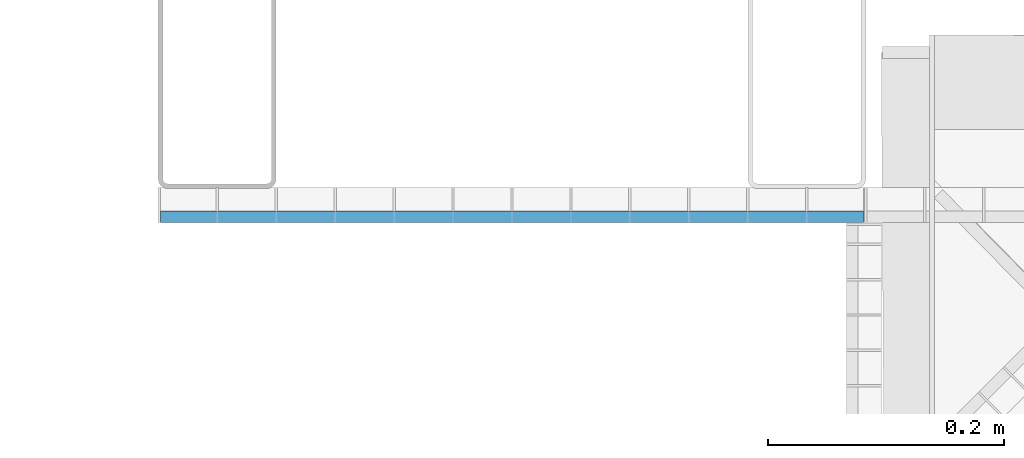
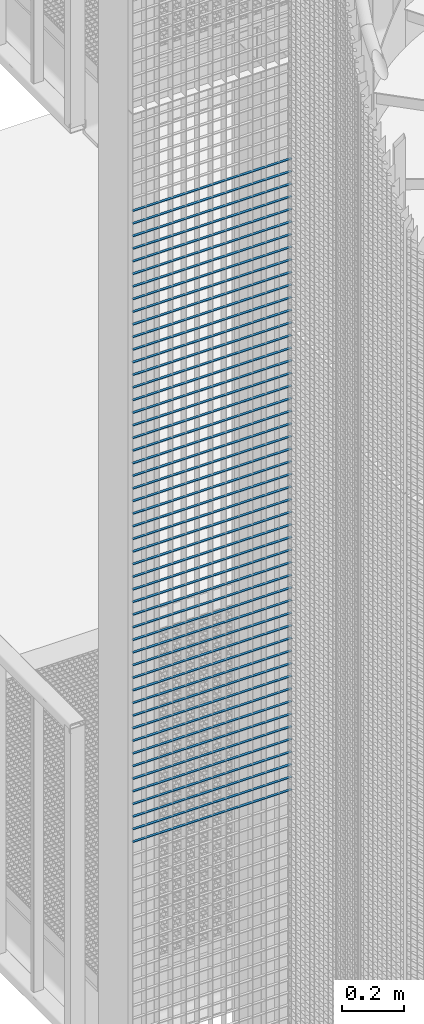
# One storey, part 322 of 1148: 51 beams, 51 elements without a shape of their own.
"""IFC2X3 building model written with IfcOpenShell, lengths in millimetres."""

from ifc_helpers import new_model, si_unit, frame, origin_with_axes, origin_2d_with_axis, place, context, subcontext, project, spatial, rectangle, extrude, material, type_object, element, aggregate, save


model = new_model("IFC2X3")

# Units and contexts
model_context = context("Model", 3, precision=1e-05, world=origin_with_axes())
body_context = subcontext(model_context, "Body", "Model", "MODEL_VIEW")
ifc_project = project(units=[si_unit("LENGTHUNIT", "METRE", prefix="MILLI"), si_unit("AREAUNIT", "SQUARE_METRE"), si_unit("VOLUMEUNIT", "CUBIC_METRE"), si_unit("MASSUNIT", "GRAM", prefix="KILO"), si_unit("TIMEUNIT", "SECOND"), si_unit("PLANEANGLEUNIT", "RADIAN"), si_unit("SOLIDANGLEUNIT", "STERADIAN"), si_unit("THERMODYNAMICTEMPERATUREUNIT", "DEGREE_CELSIUS"), si_unit("LUMINOUSINTENSITYUNIT", "LUMEN")], contexts=[model_context])

# Site, building, storey
site_placement = place(None, origin_with_axes())
site = spatial("IfcSite", under=ifc_project, at=site_placement, Name="Undefined", CompositionType="ELEMENT")
building_placement = place(site_placement, origin_with_axes())
building = spatial("IfcBuilding", under=site, at=building_placement, Name="Undefined", CompositionType="ELEMENT")
storey_placement = place(building_placement, origin_with_axes())
storey = spatial("IfcBuildingStorey", under=building, at=storey_placement, Name="Undefined", CompositionType="ELEMENT", Elevation=0.0)

# Assembly, beam
assembly_1_placement = place(storey_placement, origin_with_axes())
assembly_1 = element("IfcElementAssembly", 1, at=assembly_1_placement, inside=storey, AssemblyPlace="NOTDEFINED", PredefinedType="NOTDEFINED")
ifc_material = material(Name="STEEL/S235JR")
beam_type = type_object("IfcBeamType", Name="PL2*10", PredefinedType="NOTDEFINED")
beam_1_placement = place(assembly_1_placement, frame((20647.930410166, 876.014689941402, 9654.998), z_axis=(0.0, -1.0, 0.0), x_axis=(-1.0, 0.0, 0.0)))
beam_1 = element("IfcBeam", 2, at=beam_1_placement, type_object=beam_type, material=ifc_material, Name="ENTRETOISE", context=body_context, shape_type="SweptSolid", body=[
    extrude(rectangle(XDim=2.0, YDim=10.0, at=origin_2d_with_axis()), frame((596.0, 0.0, 0.0), z_axis=(-1.0, 0.0, 0.0), x_axis=(0.0, -1.0, 0.0)), (0.0, 0.0, 1.0), 596.0),
])
aggregate(assembly_1, [beam_1])

assembly_2_placement = place(storey_placement, origin_with_axes())
assembly_2 = element("IfcElementAssembly", 3, at=assembly_2_placement, inside=storey, AssemblyPlace="NOTDEFINED", PredefinedType="NOTDEFINED")
beam_2_placement = place(assembly_2_placement, frame((20647.930410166, 876.014689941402, 9604.998), z_axis=(0.0, -1.0, 0.0), x_axis=(-1.0, 0.0, 0.0)))
beam_2 = element("IfcBeam", 4, at=beam_2_placement, type_object=beam_type, material=ifc_material, Name="ENTRETOISE", context=body_context, shape_type="SweptSolid", body=[
    extrude(rectangle(XDim=2.0, YDim=10.0, at=origin_2d_with_axis()), frame((596.0, 0.0, 0.0), z_axis=(-1.0, 0.0, 0.0), x_axis=(0.0, -1.0, 0.0)), (0.0, 0.0, 1.0), 596.0),
])
aggregate(assembly_2, [beam_2])

assembly_3_placement = place(storey_placement, origin_with_axes())
assembly_3 = element("IfcElementAssembly", 5, at=assembly_3_placement, inside=storey, AssemblyPlace="NOTDEFINED", PredefinedType="NOTDEFINED")
beam_3_placement = place(assembly_3_placement, frame((20647.930410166, 876.014689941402, 9554.998), z_axis=(0.0, -1.0, 0.0), x_axis=(-1.0, 0.0, 0.0)))
beam_3 = element("IfcBeam", 6, at=beam_3_placement, type_object=beam_type, material=ifc_material, Name="ENTRETOISE", context=body_context, shape_type="SweptSolid", body=[
    extrude(rectangle(XDim=2.0, YDim=10.0, at=origin_2d_with_axis()), frame((596.0, 0.0, 0.0), z_axis=(-1.0, 0.0, 0.0), x_axis=(0.0, -1.0, 0.0)), (0.0, 0.0, 1.0), 596.0),
])
aggregate(assembly_3, [beam_3])

assembly_4_placement = place(storey_placement, origin_with_axes())
assembly_4 = element("IfcElementAssembly", 7, at=assembly_4_placement, inside=storey, AssemblyPlace="NOTDEFINED", PredefinedType="NOTDEFINED")
beam_4_placement = place(assembly_4_placement, frame((20647.930410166, 876.014689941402, 9504.998), z_axis=(0.0, -1.0, 0.0), x_axis=(-1.0, 0.0, 0.0)))
beam_4 = element("IfcBeam", 8, at=beam_4_placement, type_object=beam_type, material=ifc_material, Name="ENTRETOISE", context=body_context, shape_type="SweptSolid", body=[
    extrude(rectangle(XDim=2.0, YDim=10.0, at=origin_2d_with_axis()), frame((596.0, 0.0, 0.0), z_axis=(-1.0, 0.0, 0.0), x_axis=(0.0, -1.0, 0.0)), (0.0, 0.0, 1.0), 596.0),
])
aggregate(assembly_4, [beam_4])

assembly_5_placement = place(storey_placement, origin_with_axes())
assembly_5 = element("IfcElementAssembly", 9, at=assembly_5_placement, inside=storey, AssemblyPlace="NOTDEFINED", PredefinedType="NOTDEFINED")
beam_5_placement = place(assembly_5_placement, frame((20647.930410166, 876.014689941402, 9454.998), z_axis=(0.0, -1.0, 0.0), x_axis=(-1.0, 0.0, 0.0)))
beam_5 = element("IfcBeam", 10, at=beam_5_placement, type_object=beam_type, material=ifc_material, Name="ENTRETOISE", context=body_context, shape_type="SweptSolid", body=[
    extrude(rectangle(XDim=2.0, YDim=10.0, at=origin_2d_with_axis()), frame((596.0, 0.0, 0.0), z_axis=(-1.0, 0.0, 0.0), x_axis=(0.0, -1.0, 0.0)), (0.0, 0.0, 1.0), 596.0),
])
aggregate(assembly_5, [beam_5])

assembly_6_placement = place(storey_placement, origin_with_axes())
assembly_6 = element("IfcElementAssembly", 11, at=assembly_6_placement, inside=storey, AssemblyPlace="NOTDEFINED", PredefinedType="NOTDEFINED")
beam_6_placement = place(assembly_6_placement, frame((20647.930410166, 876.014689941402, 9404.998), z_axis=(0.0, -1.0, 0.0), x_axis=(-1.0, 0.0, 0.0)))
beam_6 = element("IfcBeam", 12, at=beam_6_placement, type_object=beam_type, material=ifc_material, Name="ENTRETOISE", context=body_context, shape_type="SweptSolid", body=[
    extrude(rectangle(XDim=2.0, YDim=10.0, at=origin_2d_with_axis()), frame((596.0, 0.0, 0.0), z_axis=(-1.0, 0.0, 0.0), x_axis=(0.0, -1.0, 0.0)), (0.0, 0.0, 1.0), 596.0),
])
aggregate(assembly_6, [beam_6])

assembly_7_placement = place(storey_placement, origin_with_axes())
assembly_7 = element("IfcElementAssembly", 13, at=assembly_7_placement, inside=storey, AssemblyPlace="NOTDEFINED", PredefinedType="NOTDEFINED")
beam_7_placement = place(assembly_7_placement, frame((20647.930410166, 876.014689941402, 9354.998), z_axis=(0.0, -1.0, 0.0), x_axis=(-1.0, 0.0, 0.0)))
beam_7 = element("IfcBeam", 14, at=beam_7_placement, type_object=beam_type, material=ifc_material, Name="ENTRETOISE", context=body_context, shape_type="SweptSolid", body=[
    extrude(rectangle(XDim=2.0, YDim=10.0, at=origin_2d_with_axis()), frame((596.0, 0.0, 0.0), z_axis=(-1.0, 0.0, 0.0), x_axis=(0.0, -1.0, 0.0)), (0.0, 0.0, 1.0), 596.0),
])
aggregate(assembly_7, [beam_7])

assembly_8_placement = place(storey_placement, origin_with_axes())
assembly_8 = element("IfcElementAssembly", 15, at=assembly_8_placement, inside=storey, AssemblyPlace="NOTDEFINED", PredefinedType="NOTDEFINED")
beam_8_placement = place(assembly_8_placement, frame((20647.930410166, 876.014689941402, 9304.998), z_axis=(0.0, -1.0, 0.0), x_axis=(-1.0, 0.0, 0.0)))
beam_8 = element("IfcBeam", 16, at=beam_8_placement, type_object=beam_type, material=ifc_material, Name="ENTRETOISE", context=body_context, shape_type="SweptSolid", body=[
    extrude(rectangle(XDim=2.0, YDim=10.0, at=origin_2d_with_axis()), frame((596.0, 0.0, 0.0), z_axis=(-1.0, 0.0, 0.0), x_axis=(0.0, -1.0, 0.0)), (0.0, 0.0, 1.0), 596.0),
])
aggregate(assembly_8, [beam_8])

assembly_9_placement = place(storey_placement, origin_with_axes())
assembly_9 = element("IfcElementAssembly", 17, at=assembly_9_placement, inside=storey, AssemblyPlace="NOTDEFINED", PredefinedType="NOTDEFINED")
beam_9_placement = place(assembly_9_placement, frame((20647.930410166, 876.014689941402, 9254.998), z_axis=(0.0, -1.0, 0.0), x_axis=(-1.0, 0.0, 0.0)))
beam_9 = element("IfcBeam", 18, at=beam_9_placement, type_object=beam_type, material=ifc_material, Name="ENTRETOISE", context=body_context, shape_type="SweptSolid", body=[
    extrude(rectangle(XDim=2.0, YDim=10.0, at=origin_2d_with_axis()), frame((596.0, 0.0, 0.0), z_axis=(-1.0, 0.0, 0.0), x_axis=(0.0, -1.0, 0.0)), (0.0, 0.0, 1.0), 596.0),
])
aggregate(assembly_9, [beam_9])

assembly_10_placement = place(storey_placement, origin_with_axes())
assembly_10 = element("IfcElementAssembly", 19, at=assembly_10_placement, inside=storey, AssemblyPlace="NOTDEFINED", PredefinedType="NOTDEFINED")
beam_10_placement = place(assembly_10_placement, frame((20647.930410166, 876.014689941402, 9204.998), z_axis=(0.0, -1.0, 0.0), x_axis=(-1.0, 0.0, 0.0)))
beam_10 = element("IfcBeam", 20, at=beam_10_placement, type_object=beam_type, material=ifc_material, Name="ENTRETOISE", context=body_context, shape_type="SweptSolid", body=[
    extrude(rectangle(XDim=2.0, YDim=10.0, at=origin_2d_with_axis()), frame((596.0, 0.0, 0.0), z_axis=(-1.0, 0.0, 0.0), x_axis=(0.0, -1.0, 0.0)), (0.0, 0.0, 1.0), 596.0),
])
aggregate(assembly_10, [beam_10])

assembly_11_placement = place(storey_placement, origin_with_axes())
assembly_11 = element("IfcElementAssembly", 21, at=assembly_11_placement, inside=storey, AssemblyPlace="NOTDEFINED", PredefinedType="NOTDEFINED")
beam_11_placement = place(assembly_11_placement, frame((20647.930410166, 876.014689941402, 9154.998), z_axis=(0.0, -1.0, 0.0), x_axis=(-1.0, 0.0, 0.0)))
beam_11 = element("IfcBeam", 22, at=beam_11_placement, type_object=beam_type, material=ifc_material, Name="ENTRETOISE", context=body_context, shape_type="SweptSolid", body=[
    extrude(rectangle(XDim=2.0, YDim=10.0, at=origin_2d_with_axis()), frame((596.0, 0.0, 0.0), z_axis=(-1.0, 0.0, 0.0), x_axis=(0.0, -1.0, 0.0)), (0.0, 0.0, 1.0), 596.0),
])
aggregate(assembly_11, [beam_11])

assembly_12_placement = place(storey_placement, origin_with_axes())
assembly_12 = element("IfcElementAssembly", 23, at=assembly_12_placement, inside=storey, AssemblyPlace="NOTDEFINED", PredefinedType="NOTDEFINED")
beam_12_placement = place(assembly_12_placement, frame((20647.930410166, 876.014689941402, 9104.998), z_axis=(0.0, -1.0, 0.0), x_axis=(-1.0, 0.0, 0.0)))
beam_12 = element("IfcBeam", 24, at=beam_12_placement, type_object=beam_type, material=ifc_material, Name="ENTRETOISE", context=body_context, shape_type="SweptSolid", body=[
    extrude(rectangle(XDim=2.0, YDim=10.0, at=origin_2d_with_axis()), frame((596.0, 0.0, 0.0), z_axis=(-1.0, 0.0, 0.0), x_axis=(0.0, -1.0, 0.0)), (0.0, 0.0, 1.0), 596.0),
])
aggregate(assembly_12, [beam_12])

assembly_13_placement = place(storey_placement, origin_with_axes())
assembly_13 = element("IfcElementAssembly", 25, at=assembly_13_placement, inside=storey, AssemblyPlace="NOTDEFINED", PredefinedType="NOTDEFINED")
beam_13_placement = place(assembly_13_placement, frame((20647.930410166, 876.014689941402, 9054.998), z_axis=(0.0, -1.0, 0.0), x_axis=(-1.0, 0.0, 0.0)))
beam_13 = element("IfcBeam", 26, at=beam_13_placement, type_object=beam_type, material=ifc_material, Name="ENTRETOISE", context=body_context, shape_type="SweptSolid", body=[
    extrude(rectangle(XDim=2.0, YDim=10.0, at=origin_2d_with_axis()), frame((596.0, 0.0, 0.0), z_axis=(-1.0, 0.0, 0.0), x_axis=(0.0, -1.0, 0.0)), (0.0, 0.0, 1.0), 596.0),
])
aggregate(assembly_13, [beam_13])

assembly_14_placement = place(storey_placement, origin_with_axes())
assembly_14 = element("IfcElementAssembly", 27, at=assembly_14_placement, inside=storey, AssemblyPlace="NOTDEFINED", PredefinedType="NOTDEFINED")
beam_14_placement = place(assembly_14_placement, frame((20647.930410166, 876.014689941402, 9004.998), z_axis=(0.0, -1.0, 0.0), x_axis=(-1.0, 0.0, 0.0)))
beam_14 = element("IfcBeam", 28, at=beam_14_placement, type_object=beam_type, material=ifc_material, Name="ENTRETOISE", context=body_context, shape_type="SweptSolid", body=[
    extrude(rectangle(XDim=2.0, YDim=10.0, at=origin_2d_with_axis()), frame((596.0, 0.0, 0.0), z_axis=(-1.0, 0.0, 0.0), x_axis=(0.0, -1.0, 0.0)), (0.0, 0.0, 1.0), 596.0),
])
aggregate(assembly_14, [beam_14])

assembly_15_placement = place(storey_placement, origin_with_axes())
assembly_15 = element("IfcElementAssembly", 29, at=assembly_15_placement, inside=storey, AssemblyPlace="NOTDEFINED", PredefinedType="NOTDEFINED")
beam_15_placement = place(assembly_15_placement, frame((20647.930410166, 876.014689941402, 8954.998), z_axis=(0.0, -1.0, 0.0), x_axis=(-1.0, 0.0, 0.0)))
beam_15 = element("IfcBeam", 30, at=beam_15_placement, type_object=beam_type, material=ifc_material, Name="ENTRETOISE", context=body_context, shape_type="SweptSolid", body=[
    extrude(rectangle(XDim=2.0, YDim=10.0, at=origin_2d_with_axis()), frame((596.0, 0.0, 0.0), z_axis=(-1.0, 0.0, 0.0), x_axis=(0.0, -1.0, 0.0)), (0.0, 0.0, 1.0), 596.0),
])
aggregate(assembly_15, [beam_15])

assembly_16_placement = place(storey_placement, origin_with_axes())
assembly_16 = element("IfcElementAssembly", 31, at=assembly_16_placement, inside=storey, AssemblyPlace="NOTDEFINED", PredefinedType="NOTDEFINED")
beam_16_placement = place(assembly_16_placement, frame((20647.930410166, 876.014689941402, 8904.998), z_axis=(0.0, -1.0, 0.0), x_axis=(-1.0, 0.0, 0.0)))
beam_16 = element("IfcBeam", 32, at=beam_16_placement, type_object=beam_type, material=ifc_material, Name="ENTRETOISE", context=body_context, shape_type="SweptSolid", body=[
    extrude(rectangle(XDim=2.0, YDim=10.0, at=origin_2d_with_axis()), frame((596.0, 0.0, 0.0), z_axis=(-1.0, 0.0, 0.0), x_axis=(0.0, -1.0, 0.0)), (0.0, 0.0, 1.0), 596.0),
])
aggregate(assembly_16, [beam_16])

assembly_17_placement = place(storey_placement, origin_with_axes())
assembly_17 = element("IfcElementAssembly", 33, at=assembly_17_placement, inside=storey, AssemblyPlace="NOTDEFINED", PredefinedType="NOTDEFINED")
beam_17_placement = place(assembly_17_placement, frame((20647.930410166, 876.014689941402, 8854.998), z_axis=(0.0, -1.0, 0.0), x_axis=(-1.0, 0.0, 0.0)))
beam_17 = element("IfcBeam", 34, at=beam_17_placement, type_object=beam_type, material=ifc_material, Name="ENTRETOISE", context=body_context, shape_type="SweptSolid", body=[
    extrude(rectangle(XDim=2.0, YDim=10.0, at=origin_2d_with_axis()), frame((596.0, 0.0, 0.0), z_axis=(-1.0, 0.0, 0.0), x_axis=(0.0, -1.0, 0.0)), (0.0, 0.0, 1.0), 596.0),
])
aggregate(assembly_17, [beam_17])

assembly_18_placement = place(storey_placement, origin_with_axes())
assembly_18 = element("IfcElementAssembly", 35, at=assembly_18_placement, inside=storey, AssemblyPlace="NOTDEFINED", PredefinedType="NOTDEFINED")
beam_18_placement = place(assembly_18_placement, frame((20647.930410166, 876.014689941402, 8804.998), z_axis=(0.0, -1.0, 0.0), x_axis=(-1.0, 0.0, 0.0)))
beam_18 = element("IfcBeam", 36, at=beam_18_placement, type_object=beam_type, material=ifc_material, Name="ENTRETOISE", context=body_context, shape_type="SweptSolid", body=[
    extrude(rectangle(XDim=2.0, YDim=10.0, at=origin_2d_with_axis()), frame((596.0, 0.0, 0.0), z_axis=(-1.0, 0.0, 0.0), x_axis=(0.0, -1.0, 0.0)), (0.0, 0.0, 1.0), 596.0),
])
aggregate(assembly_18, [beam_18])

assembly_19_placement = place(storey_placement, origin_with_axes())
assembly_19 = element("IfcElementAssembly", 37, at=assembly_19_placement, inside=storey, AssemblyPlace="NOTDEFINED", PredefinedType="NOTDEFINED")
beam_19_placement = place(assembly_19_placement, frame((20647.930410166, 876.014689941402, 8754.998), z_axis=(0.0, -1.0, 0.0), x_axis=(-1.0, 0.0, 0.0)))
beam_19 = element("IfcBeam", 38, at=beam_19_placement, type_object=beam_type, material=ifc_material, Name="ENTRETOISE", context=body_context, shape_type="SweptSolid", body=[
    extrude(rectangle(XDim=2.0, YDim=10.0, at=origin_2d_with_axis()), frame((596.0, 0.0, 0.0), z_axis=(-1.0, 0.0, 0.0), x_axis=(0.0, -1.0, 0.0)), (0.0, 0.0, 1.0), 596.0),
])
aggregate(assembly_19, [beam_19])

assembly_20_placement = place(storey_placement, origin_with_axes())
assembly_20 = element("IfcElementAssembly", 39, at=assembly_20_placement, inside=storey, AssemblyPlace="NOTDEFINED", PredefinedType="NOTDEFINED")
beam_20_placement = place(assembly_20_placement, frame((20647.930410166, 876.014689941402, 8704.998), z_axis=(0.0, -1.0, 0.0), x_axis=(-1.0, 0.0, 0.0)))
beam_20 = element("IfcBeam", 40, at=beam_20_placement, type_object=beam_type, material=ifc_material, Name="ENTRETOISE", context=body_context, shape_type="SweptSolid", body=[
    extrude(rectangle(XDim=2.0, YDim=10.0, at=origin_2d_with_axis()), frame((596.0, 0.0, 0.0), z_axis=(-1.0, 0.0, 0.0), x_axis=(0.0, -1.0, 0.0)), (0.0, 0.0, 1.0), 596.0),
])
aggregate(assembly_20, [beam_20])

assembly_21_placement = place(storey_placement, origin_with_axes())
assembly_21 = element("IfcElementAssembly", 41, at=assembly_21_placement, inside=storey, AssemblyPlace="NOTDEFINED", PredefinedType="NOTDEFINED")
beam_21_placement = place(assembly_21_placement, frame((20647.930410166, 876.014689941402, 8654.998), z_axis=(0.0, -1.0, 0.0), x_axis=(-1.0, 0.0, 0.0)))
beam_21 = element("IfcBeam", 42, at=beam_21_placement, type_object=beam_type, material=ifc_material, Name="ENTRETOISE", context=body_context, shape_type="SweptSolid", body=[
    extrude(rectangle(XDim=2.0, YDim=10.0, at=origin_2d_with_axis()), frame((596.0, 0.0, 0.0), z_axis=(-1.0, 0.0, 0.0), x_axis=(0.0, -1.0, 0.0)), (0.0, 0.0, 1.0), 596.0),
])
aggregate(assembly_21, [beam_21])

assembly_22_placement = place(storey_placement, origin_with_axes())
assembly_22 = element("IfcElementAssembly", 43, at=assembly_22_placement, inside=storey, AssemblyPlace="NOTDEFINED", PredefinedType="NOTDEFINED")
beam_22_placement = place(assembly_22_placement, frame((20647.930410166, 876.014689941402, 8604.998), z_axis=(0.0, -1.0, 0.0), x_axis=(-1.0, 0.0, 0.0)))
beam_22 = element("IfcBeam", 44, at=beam_22_placement, type_object=beam_type, material=ifc_material, Name="ENTRETOISE", context=body_context, shape_type="SweptSolid", body=[
    extrude(rectangle(XDim=2.0, YDim=10.0, at=origin_2d_with_axis()), frame((596.0, 0.0, 0.0), z_axis=(-1.0, 0.0, 0.0), x_axis=(0.0, -1.0, 0.0)), (0.0, 0.0, 1.0), 596.0),
])
aggregate(assembly_22, [beam_22])

assembly_23_placement = place(storey_placement, origin_with_axes())
assembly_23 = element("IfcElementAssembly", 45, at=assembly_23_placement, inside=storey, AssemblyPlace="NOTDEFINED", PredefinedType="NOTDEFINED")
beam_23_placement = place(assembly_23_placement, frame((20647.930410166, 876.014689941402, 8554.998), z_axis=(0.0, -1.0, 0.0), x_axis=(-1.0, 0.0, 0.0)))
beam_23 = element("IfcBeam", 46, at=beam_23_placement, type_object=beam_type, material=ifc_material, Name="ENTRETOISE", context=body_context, shape_type="SweptSolid", body=[
    extrude(rectangle(XDim=2.0, YDim=10.0, at=origin_2d_with_axis()), frame((596.0, 0.0, 0.0), z_axis=(-1.0, 0.0, 0.0), x_axis=(0.0, -1.0, 0.0)), (0.0, 0.0, 1.0), 596.0),
])
aggregate(assembly_23, [beam_23])

assembly_24_placement = place(storey_placement, origin_with_axes())
assembly_24 = element("IfcElementAssembly", 47, at=assembly_24_placement, inside=storey, AssemblyPlace="NOTDEFINED", PredefinedType="NOTDEFINED")
beam_24_placement = place(assembly_24_placement, frame((20647.930410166, 876.014689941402, 8504.998), z_axis=(0.0, -1.0, 0.0), x_axis=(-1.0, 0.0, 0.0)))
beam_24 = element("IfcBeam", 48, at=beam_24_placement, type_object=beam_type, material=ifc_material, Name="ENTRETOISE", context=body_context, shape_type="SweptSolid", body=[
    extrude(rectangle(XDim=2.0, YDim=10.0, at=origin_2d_with_axis()), frame((596.0, 0.0, 0.0), z_axis=(-1.0, 0.0, 0.0), x_axis=(0.0, -1.0, 0.0)), (0.0, 0.0, 1.0), 596.0),
])
aggregate(assembly_24, [beam_24])

assembly_25_placement = place(storey_placement, origin_with_axes())
assembly_25 = element("IfcElementAssembly", 49, at=assembly_25_placement, inside=storey, AssemblyPlace="NOTDEFINED", PredefinedType="NOTDEFINED")
beam_25_placement = place(assembly_25_placement, frame((20647.930410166, 876.014689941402, 8454.998), z_axis=(0.0, -1.0, 0.0), x_axis=(-1.0, 0.0, 0.0)))
beam_25 = element("IfcBeam", 50, at=beam_25_placement, type_object=beam_type, material=ifc_material, Name="ENTRETOISE", context=body_context, shape_type="SweptSolid", body=[
    extrude(rectangle(XDim=2.0, YDim=10.0, at=origin_2d_with_axis()), frame((596.0, 0.0, 0.0), z_axis=(-1.0, 0.0, 0.0), x_axis=(0.0, -1.0, 0.0)), (0.0, 0.0, 1.0), 596.0),
])
aggregate(assembly_25, [beam_25])

assembly_26_placement = place(storey_placement, origin_with_axes())
assembly_26 = element("IfcElementAssembly", 51, at=assembly_26_placement, inside=storey, AssemblyPlace="NOTDEFINED", PredefinedType="NOTDEFINED")
beam_26_placement = place(assembly_26_placement, frame((20647.930410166, 876.014689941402, 8404.998), z_axis=(0.0, -1.0, 0.0), x_axis=(-1.0, 0.0, 0.0)))
beam_26 = element("IfcBeam", 52, at=beam_26_placement, type_object=beam_type, material=ifc_material, Name="ENTRETOISE", context=body_context, shape_type="SweptSolid", body=[
    extrude(rectangle(XDim=2.0, YDim=10.0, at=origin_2d_with_axis()), frame((596.0, 0.0, 0.0), z_axis=(-1.0, 0.0, 0.0), x_axis=(0.0, -1.0, 0.0)), (0.0, 0.0, 1.0), 596.0),
])
aggregate(assembly_26, [beam_26])

assembly_27_placement = place(storey_placement, origin_with_axes())
assembly_27 = element("IfcElementAssembly", 53, at=assembly_27_placement, inside=storey, AssemblyPlace="NOTDEFINED", PredefinedType="NOTDEFINED")
beam_27_placement = place(assembly_27_placement, frame((20647.930410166, 876.014689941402, 8354.998), z_axis=(0.0, -1.0, 0.0), x_axis=(-1.0, 0.0, 0.0)))
beam_27 = element("IfcBeam", 54, at=beam_27_placement, type_object=beam_type, material=ifc_material, Name="ENTRETOISE", context=body_context, shape_type="SweptSolid", body=[
    extrude(rectangle(XDim=2.0, YDim=10.0, at=origin_2d_with_axis()), frame((596.0, 0.0, 0.0), z_axis=(-1.0, 0.0, 0.0), x_axis=(0.0, -1.0, 0.0)), (0.0, 0.0, 1.0), 596.0),
])
aggregate(assembly_27, [beam_27])

assembly_28_placement = place(storey_placement, origin_with_axes())
assembly_28 = element("IfcElementAssembly", 55, at=assembly_28_placement, inside=storey, AssemblyPlace="NOTDEFINED", PredefinedType="NOTDEFINED")
beam_28_placement = place(assembly_28_placement, frame((20647.930410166, 876.014689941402, 8304.998), z_axis=(0.0, -1.0, 0.0), x_axis=(-1.0, 0.0, 0.0)))
beam_28 = element("IfcBeam", 56, at=beam_28_placement, type_object=beam_type, material=ifc_material, Name="ENTRETOISE", context=body_context, shape_type="SweptSolid", body=[
    extrude(rectangle(XDim=2.0, YDim=10.0, at=origin_2d_with_axis()), frame((596.0, 0.0, 0.0), z_axis=(-1.0, 0.0, 0.0), x_axis=(0.0, -1.0, 0.0)), (0.0, 0.0, 1.0), 596.0),
])
aggregate(assembly_28, [beam_28])

assembly_29_placement = place(storey_placement, origin_with_axes())
assembly_29 = element("IfcElementAssembly", 57, at=assembly_29_placement, inside=storey, AssemblyPlace="NOTDEFINED", PredefinedType="NOTDEFINED")
beam_29_placement = place(assembly_29_placement, frame((20647.930410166, 876.014689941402, 8254.998), z_axis=(0.0, -1.0, 0.0), x_axis=(-1.0, 0.0, 0.0)))
beam_29 = element("IfcBeam", 58, at=beam_29_placement, type_object=beam_type, material=ifc_material, Name="ENTRETOISE", context=body_context, shape_type="SweptSolid", body=[
    extrude(rectangle(XDim=2.0, YDim=10.0, at=origin_2d_with_axis()), frame((596.0, 0.0, 0.0), z_axis=(-1.0, 0.0, 0.0), x_axis=(0.0, -1.0, 0.0)), (0.0, 0.0, 1.0), 596.0),
])
aggregate(assembly_29, [beam_29])

assembly_30_placement = place(storey_placement, origin_with_axes())
assembly_30 = element("IfcElementAssembly", 59, at=assembly_30_placement, inside=storey, AssemblyPlace="NOTDEFINED", PredefinedType="NOTDEFINED")
beam_30_placement = place(assembly_30_placement, frame((20647.930410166, 876.014689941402, 8204.998), z_axis=(0.0, -1.0, 0.0), x_axis=(-1.0, 0.0, 0.0)))
beam_30 = element("IfcBeam", 60, at=beam_30_placement, type_object=beam_type, material=ifc_material, Name="ENTRETOISE", context=body_context, shape_type="SweptSolid", body=[
    extrude(rectangle(XDim=2.0, YDim=10.0, at=origin_2d_with_axis()), frame((596.0, 0.0, 0.0), z_axis=(-1.0, 0.0, 0.0), x_axis=(0.0, -1.0, 0.0)), (0.0, 0.0, 1.0), 596.0),
])
aggregate(assembly_30, [beam_30])

assembly_31_placement = place(storey_placement, origin_with_axes())
assembly_31 = element("IfcElementAssembly", 61, at=assembly_31_placement, inside=storey, AssemblyPlace="NOTDEFINED", PredefinedType="NOTDEFINED")
beam_31_placement = place(assembly_31_placement, frame((20647.930410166, 876.014689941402, 8154.998), z_axis=(0.0, -1.0, 0.0), x_axis=(-1.0, 0.0, 0.0)))
beam_31 = element("IfcBeam", 62, at=beam_31_placement, type_object=beam_type, material=ifc_material, Name="ENTRETOISE", context=body_context, shape_type="SweptSolid", body=[
    extrude(rectangle(XDim=2.0, YDim=10.0, at=origin_2d_with_axis()), frame((596.0, 0.0, 0.0), z_axis=(-1.0, 0.0, 0.0), x_axis=(0.0, -1.0, 0.0)), (0.0, 0.0, 1.0), 596.0),
])
aggregate(assembly_31, [beam_31])

assembly_32_placement = place(storey_placement, origin_with_axes())
assembly_32 = element("IfcElementAssembly", 63, at=assembly_32_placement, inside=storey, AssemblyPlace="NOTDEFINED", PredefinedType="NOTDEFINED")
beam_32_placement = place(assembly_32_placement, frame((20647.930410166, 876.014689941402, 8104.998), z_axis=(0.0, -1.0, 0.0), x_axis=(-1.0, 0.0, 0.0)))
beam_32 = element("IfcBeam", 64, at=beam_32_placement, type_object=beam_type, material=ifc_material, Name="ENTRETOISE", context=body_context, shape_type="SweptSolid", body=[
    extrude(rectangle(XDim=2.0, YDim=10.0, at=origin_2d_with_axis()), frame((596.0, 0.0, 0.0), z_axis=(-1.0, 0.0, 0.0), x_axis=(0.0, -1.0, 0.0)), (0.0, 0.0, 1.0), 596.0),
])
aggregate(assembly_32, [beam_32])

assembly_33_placement = place(storey_placement, origin_with_axes())
assembly_33 = element("IfcElementAssembly", 65, at=assembly_33_placement, inside=storey, AssemblyPlace="NOTDEFINED", PredefinedType="NOTDEFINED")
beam_33_placement = place(assembly_33_placement, frame((20647.930410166, 876.014689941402, 8054.998), z_axis=(0.0, -1.0, 0.0), x_axis=(-1.0, 0.0, 0.0)))
beam_33 = element("IfcBeam", 66, at=beam_33_placement, type_object=beam_type, material=ifc_material, Name="ENTRETOISE", context=body_context, shape_type="SweptSolid", body=[
    extrude(rectangle(XDim=2.0, YDim=10.0, at=origin_2d_with_axis()), frame((596.0, 0.0, 0.0), z_axis=(-1.0, 0.0, 0.0), x_axis=(0.0, -1.0, 0.0)), (0.0, 0.0, 1.0), 596.0),
])
aggregate(assembly_33, [beam_33])

assembly_34_placement = place(storey_placement, origin_with_axes())
assembly_34 = element("IfcElementAssembly", 67, at=assembly_34_placement, inside=storey, AssemblyPlace="NOTDEFINED", PredefinedType="NOTDEFINED")
beam_34_placement = place(assembly_34_placement, frame((20647.930410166, 876.014689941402, 8004.998), z_axis=(0.0, -1.0, 0.0), x_axis=(-1.0, 0.0, 0.0)))
beam_34 = element("IfcBeam", 68, at=beam_34_placement, type_object=beam_type, material=ifc_material, Name="ENTRETOISE", context=body_context, shape_type="SweptSolid", body=[
    extrude(rectangle(XDim=2.0, YDim=10.0, at=origin_2d_with_axis()), frame((596.0, 0.0, 0.0), z_axis=(-1.0, 0.0, 0.0), x_axis=(0.0, -1.0, 0.0)), (0.0, 0.0, 1.0), 596.0),
])
aggregate(assembly_34, [beam_34])

assembly_35_placement = place(storey_placement, origin_with_axes())
assembly_35 = element("IfcElementAssembly", 69, at=assembly_35_placement, inside=storey, AssemblyPlace="NOTDEFINED", PredefinedType="NOTDEFINED")
beam_35_placement = place(assembly_35_placement, frame((20647.930410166, 876.014689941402, 7954.998), z_axis=(0.0, -1.0, 0.0), x_axis=(-1.0, 0.0, 0.0)))
beam_35 = element("IfcBeam", 70, at=beam_35_placement, type_object=beam_type, material=ifc_material, Name="ENTRETOISE", context=body_context, shape_type="SweptSolid", body=[
    extrude(rectangle(XDim=2.0, YDim=10.0, at=origin_2d_with_axis()), frame((596.0, 0.0, 0.0), z_axis=(-1.0, 0.0, 0.0), x_axis=(0.0, -1.0, 0.0)), (0.0, 0.0, 1.0), 596.0),
])
aggregate(assembly_35, [beam_35])

assembly_36_placement = place(storey_placement, origin_with_axes())
assembly_36 = element("IfcElementAssembly", 71, at=assembly_36_placement, inside=storey, AssemblyPlace="NOTDEFINED", PredefinedType="NOTDEFINED")
beam_36_placement = place(assembly_36_placement, frame((20647.930410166, 876.014689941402, 7904.998), z_axis=(0.0, -1.0, 0.0), x_axis=(-1.0, 0.0, 0.0)))
beam_36 = element("IfcBeam", 72, at=beam_36_placement, type_object=beam_type, material=ifc_material, Name="ENTRETOISE", context=body_context, shape_type="SweptSolid", body=[
    extrude(rectangle(XDim=2.0, YDim=10.0, at=origin_2d_with_axis()), frame((596.0, 0.0, 0.0), z_axis=(-1.0, 0.0, 0.0), x_axis=(0.0, -1.0, 0.0)), (0.0, 0.0, 1.0), 596.0),
])
aggregate(assembly_36, [beam_36])

assembly_37_placement = place(storey_placement, origin_with_axes())
assembly_37 = element("IfcElementAssembly", 73, at=assembly_37_placement, inside=storey, AssemblyPlace="NOTDEFINED", PredefinedType="NOTDEFINED")
beam_37_placement = place(assembly_37_placement, frame((20647.930410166, 876.014689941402, 7854.998), z_axis=(0.0, -1.0, 0.0), x_axis=(-1.0, 0.0, 0.0)))
beam_37 = element("IfcBeam", 74, at=beam_37_placement, type_object=beam_type, material=ifc_material, Name="ENTRETOISE", context=body_context, shape_type="SweptSolid", body=[
    extrude(rectangle(XDim=2.0, YDim=10.0, at=origin_2d_with_axis()), frame((596.0, 0.0, 0.0), z_axis=(-1.0, 0.0, 0.0), x_axis=(0.0, -1.0, 0.0)), (0.0, 0.0, 1.0), 596.0),
])
aggregate(assembly_37, [beam_37])

assembly_38_placement = place(storey_placement, origin_with_axes())
assembly_38 = element("IfcElementAssembly", 75, at=assembly_38_placement, inside=storey, AssemblyPlace="NOTDEFINED", PredefinedType="NOTDEFINED")
beam_38_placement = place(assembly_38_placement, frame((20647.930410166, 876.014689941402, 7804.998), z_axis=(0.0, -1.0, 0.0), x_axis=(-1.0, 0.0, 0.0)))
beam_38 = element("IfcBeam", 76, at=beam_38_placement, type_object=beam_type, material=ifc_material, Name="ENTRETOISE", context=body_context, shape_type="SweptSolid", body=[
    extrude(rectangle(XDim=2.0, YDim=10.0, at=origin_2d_with_axis()), frame((596.0, 0.0, 0.0), z_axis=(-1.0, 0.0, 0.0), x_axis=(0.0, -1.0, 0.0)), (0.0, 0.0, 1.0), 596.0),
])
aggregate(assembly_38, [beam_38])

assembly_39_placement = place(storey_placement, origin_with_axes())
assembly_39 = element("IfcElementAssembly", 77, at=assembly_39_placement, inside=storey, AssemblyPlace="NOTDEFINED", PredefinedType="NOTDEFINED")
beam_39_placement = place(assembly_39_placement, frame((20647.930410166, 876.014689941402, 7754.998), z_axis=(0.0, -1.0, 0.0), x_axis=(-1.0, 0.0, 0.0)))
beam_39 = element("IfcBeam", 78, at=beam_39_placement, type_object=beam_type, material=ifc_material, Name="ENTRETOISE", context=body_context, shape_type="SweptSolid", body=[
    extrude(rectangle(XDim=2.0, YDim=10.0, at=origin_2d_with_axis()), frame((596.0, 0.0, 0.0), z_axis=(-1.0, 0.0, 0.0), x_axis=(0.0, -1.0, 0.0)), (0.0, 0.0, 1.0), 596.0),
])
aggregate(assembly_39, [beam_39])

assembly_40_placement = place(storey_placement, origin_with_axes())
assembly_40 = element("IfcElementAssembly", 79, at=assembly_40_placement, inside=storey, AssemblyPlace="NOTDEFINED", PredefinedType="NOTDEFINED")
beam_40_placement = place(assembly_40_placement, frame((20647.930410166, 876.014689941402, 7704.998), z_axis=(0.0, -1.0, 0.0), x_axis=(-1.0, 0.0, 0.0)))
beam_40 = element("IfcBeam", 80, at=beam_40_placement, type_object=beam_type, material=ifc_material, Name="ENTRETOISE", context=body_context, shape_type="SweptSolid", body=[
    extrude(rectangle(XDim=2.0, YDim=10.0, at=origin_2d_with_axis()), frame((596.0, 0.0, 0.0), z_axis=(-1.0, 0.0, 0.0), x_axis=(0.0, -1.0, 0.0)), (0.0, 0.0, 1.0), 596.0),
])
aggregate(assembly_40, [beam_40])

assembly_41_placement = place(storey_placement, origin_with_axes())
assembly_41 = element("IfcElementAssembly", 81, at=assembly_41_placement, inside=storey, AssemblyPlace="NOTDEFINED", PredefinedType="NOTDEFINED")
beam_41_placement = place(assembly_41_placement, frame((20647.930410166, 876.014689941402, 7654.998), z_axis=(0.0, -1.0, 0.0), x_axis=(-1.0, 0.0, 0.0)))
beam_41 = element("IfcBeam", 82, at=beam_41_placement, type_object=beam_type, material=ifc_material, Name="ENTRETOISE", context=body_context, shape_type="SweptSolid", body=[
    extrude(rectangle(XDim=2.0, YDim=10.0, at=origin_2d_with_axis()), frame((596.0, 0.0, 0.0), z_axis=(-1.0, 0.0, 0.0), x_axis=(0.0, -1.0, 0.0)), (0.0, 0.0, 1.0), 596.0),
])
aggregate(assembly_41, [beam_41])

assembly_42_placement = place(storey_placement, origin_with_axes())
assembly_42 = element("IfcElementAssembly", 83, at=assembly_42_placement, inside=storey, AssemblyPlace="NOTDEFINED", PredefinedType="NOTDEFINED")
beam_42_placement = place(assembly_42_placement, frame((20647.930410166, 876.014689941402, 7604.998), z_axis=(0.0, -1.0, 0.0), x_axis=(-1.0, 0.0, 0.0)))
beam_42 = element("IfcBeam", 84, at=beam_42_placement, type_object=beam_type, material=ifc_material, Name="ENTRETOISE", context=body_context, shape_type="SweptSolid", body=[
    extrude(rectangle(XDim=2.0, YDim=10.0, at=origin_2d_with_axis()), frame((596.0, 0.0, 0.0), z_axis=(-1.0, 0.0, 0.0), x_axis=(0.0, -1.0, 0.0)), (0.0, 0.0, 1.0), 596.0),
])
aggregate(assembly_42, [beam_42])

assembly_43_placement = place(storey_placement, origin_with_axes())
assembly_43 = element("IfcElementAssembly", 85, at=assembly_43_placement, inside=storey, AssemblyPlace="NOTDEFINED", PredefinedType="NOTDEFINED")
beam_43_placement = place(assembly_43_placement, frame((20647.930410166, 876.014689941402, 7554.998), z_axis=(0.0, -1.0, 0.0), x_axis=(-1.0, 0.0, 0.0)))
beam_43 = element("IfcBeam", 86, at=beam_43_placement, type_object=beam_type, material=ifc_material, Name="ENTRETOISE", context=body_context, shape_type="SweptSolid", body=[
    extrude(rectangle(XDim=2.0, YDim=10.0, at=origin_2d_with_axis()), frame((596.0, 0.0, 0.0), z_axis=(-1.0, 0.0, 0.0), x_axis=(0.0, -1.0, 0.0)), (0.0, 0.0, 1.0), 596.0),
])
aggregate(assembly_43, [beam_43])

assembly_44_placement = place(storey_placement, origin_with_axes())
assembly_44 = element("IfcElementAssembly", 87, at=assembly_44_placement, inside=storey, AssemblyPlace="NOTDEFINED", PredefinedType="NOTDEFINED")
beam_44_placement = place(assembly_44_placement, frame((20647.930410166, 876.014689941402, 7504.998), z_axis=(0.0, -1.0, 0.0), x_axis=(-1.0, 0.0, 0.0)))
beam_44 = element("IfcBeam", 88, at=beam_44_placement, type_object=beam_type, material=ifc_material, Name="ENTRETOISE", context=body_context, shape_type="SweptSolid", body=[
    extrude(rectangle(XDim=2.0, YDim=10.0, at=origin_2d_with_axis()), frame((596.0, 0.0, 0.0), z_axis=(-1.0, 0.0, 0.0), x_axis=(0.0, -1.0, 0.0)), (0.0, 0.0, 1.0), 596.0),
])
aggregate(assembly_44, [beam_44])

assembly_45_placement = place(storey_placement, origin_with_axes())
assembly_45 = element("IfcElementAssembly", 89, at=assembly_45_placement, inside=storey, AssemblyPlace="NOTDEFINED", PredefinedType="NOTDEFINED")
beam_45_placement = place(assembly_45_placement, frame((20647.930410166, 876.014689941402, 7454.998), z_axis=(0.0, -1.0, 0.0), x_axis=(-1.0, 0.0, 0.0)))
beam_45 = element("IfcBeam", 90, at=beam_45_placement, type_object=beam_type, material=ifc_material, Name="ENTRETOISE", context=body_context, shape_type="SweptSolid", body=[
    extrude(rectangle(XDim=2.0, YDim=10.0, at=origin_2d_with_axis()), frame((596.0, 0.0, 0.0), z_axis=(-1.0, 0.0, 0.0), x_axis=(0.0, -1.0, 0.0)), (0.0, 0.0, 1.0), 596.0),
])
aggregate(assembly_45, [beam_45])

assembly_46_placement = place(storey_placement, origin_with_axes())
assembly_46 = element("IfcElementAssembly", 91, at=assembly_46_placement, inside=storey, AssemblyPlace="NOTDEFINED", PredefinedType="NOTDEFINED")
beam_46_placement = place(assembly_46_placement, frame((20647.930410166, 876.014689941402, 7404.998), z_axis=(0.0, -1.0, 0.0), x_axis=(-1.0, 0.0, 0.0)))
beam_46 = element("IfcBeam", 92, at=beam_46_placement, type_object=beam_type, material=ifc_material, Name="ENTRETOISE", context=body_context, shape_type="SweptSolid", body=[
    extrude(rectangle(XDim=2.0, YDim=10.0, at=origin_2d_with_axis()), frame((596.0, 0.0, 0.0), z_axis=(-1.0, 0.0, 0.0), x_axis=(0.0, -1.0, 0.0)), (0.0, 0.0, 1.0), 596.0),
])
aggregate(assembly_46, [beam_46])

assembly_47_placement = place(storey_placement, origin_with_axes())
assembly_47 = element("IfcElementAssembly", 93, at=assembly_47_placement, inside=storey, AssemblyPlace="NOTDEFINED", PredefinedType="NOTDEFINED")
beam_47_placement = place(assembly_47_placement, frame((20647.930410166, 876.014689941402, 7354.998), z_axis=(0.0, -1.0, 0.0), x_axis=(-1.0, 0.0, 0.0)))
beam_47 = element("IfcBeam", 94, at=beam_47_placement, type_object=beam_type, material=ifc_material, Name="ENTRETOISE", context=body_context, shape_type="SweptSolid", body=[
    extrude(rectangle(XDim=2.0, YDim=10.0, at=origin_2d_with_axis()), frame((596.0, 0.0, 0.0), z_axis=(-1.0, 0.0, 0.0), x_axis=(0.0, -1.0, 0.0)), (0.0, 0.0, 1.0), 596.0),
])
aggregate(assembly_47, [beam_47])

assembly_48_placement = place(storey_placement, origin_with_axes())
assembly_48 = element("IfcElementAssembly", 95, at=assembly_48_placement, inside=storey, AssemblyPlace="NOTDEFINED", PredefinedType="NOTDEFINED")
beam_48_placement = place(assembly_48_placement, frame((20647.930410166, 876.014689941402, 7304.998), z_axis=(0.0, -1.0, 0.0), x_axis=(-1.0, 0.0, 0.0)))
beam_48 = element("IfcBeam", 96, at=beam_48_placement, type_object=beam_type, material=ifc_material, Name="ENTRETOISE", context=body_context, shape_type="SweptSolid", body=[
    extrude(rectangle(XDim=2.0, YDim=10.0, at=origin_2d_with_axis()), frame((596.0, 0.0, 0.0), z_axis=(-1.0, 0.0, 0.0), x_axis=(0.0, -1.0, 0.0)), (0.0, 0.0, 1.0), 596.0),
])
aggregate(assembly_48, [beam_48])

assembly_49_placement = place(storey_placement, origin_with_axes())
assembly_49 = element("IfcElementAssembly", 97, at=assembly_49_placement, inside=storey, AssemblyPlace="NOTDEFINED", PredefinedType="NOTDEFINED")
beam_49_placement = place(assembly_49_placement, frame((20647.930410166, 876.014689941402, 7254.998), z_axis=(0.0, -1.0, 0.0), x_axis=(-1.0, 0.0, 0.0)))
beam_49 = element("IfcBeam", 98, at=beam_49_placement, type_object=beam_type, material=ifc_material, Name="ENTRETOISE", context=body_context, shape_type="SweptSolid", body=[
    extrude(rectangle(XDim=2.0, YDim=10.0, at=origin_2d_with_axis()), frame((596.0, 0.0, 0.0), z_axis=(-1.0, 0.0, 0.0), x_axis=(0.0, -1.0, 0.0)), (0.0, 0.0, 1.0), 596.0),
])
aggregate(assembly_49, [beam_49])

assembly_50_placement = place(storey_placement, origin_with_axes())
assembly_50 = element("IfcElementAssembly", 99, at=assembly_50_placement, inside=storey, AssemblyPlace="NOTDEFINED", PredefinedType="NOTDEFINED")
beam_50_placement = place(assembly_50_placement, frame((20647.930410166, 876.014689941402, 7204.998), z_axis=(0.0, -1.0, 0.0), x_axis=(-1.0, 0.0, 0.0)))
beam_50 = element("IfcBeam", 100, at=beam_50_placement, type_object=beam_type, material=ifc_material, Name="ENTRETOISE", context=body_context, shape_type="SweptSolid", body=[
    extrude(rectangle(XDim=2.0, YDim=10.0, at=origin_2d_with_axis()), frame((596.0, 0.0, 0.0), z_axis=(-1.0, 0.0, 0.0), x_axis=(0.0, -1.0, 0.0)), (0.0, 0.0, 1.0), 596.0),
])
aggregate(assembly_50, [beam_50])

assembly_51_placement = place(storey_placement, origin_with_axes())
assembly_51 = element("IfcElementAssembly", 101, at=assembly_51_placement, inside=storey, AssemblyPlace="NOTDEFINED", PredefinedType="NOTDEFINED")
beam_51_placement = place(assembly_51_placement, frame((20647.930410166, 876.014689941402, 7154.998), z_axis=(0.0, -1.0, 0.0), x_axis=(-1.0, 0.0, 0.0)))
beam_51 = element("IfcBeam", 102, at=beam_51_placement, type_object=beam_type, material=ifc_material, Name="ENTRETOISE", context=body_context, shape_type="SweptSolid", body=[
    extrude(rectangle(XDim=2.0, YDim=10.0, at=origin_2d_with_axis()), frame((596.0, 0.0, 0.0), z_axis=(-1.0, 0.0, 0.0), x_axis=(0.0, -1.0, 0.0)), (0.0, 0.0, 1.0), 596.0),
])
aggregate(assembly_51, [beam_51])

save(model, "model.ifc")
